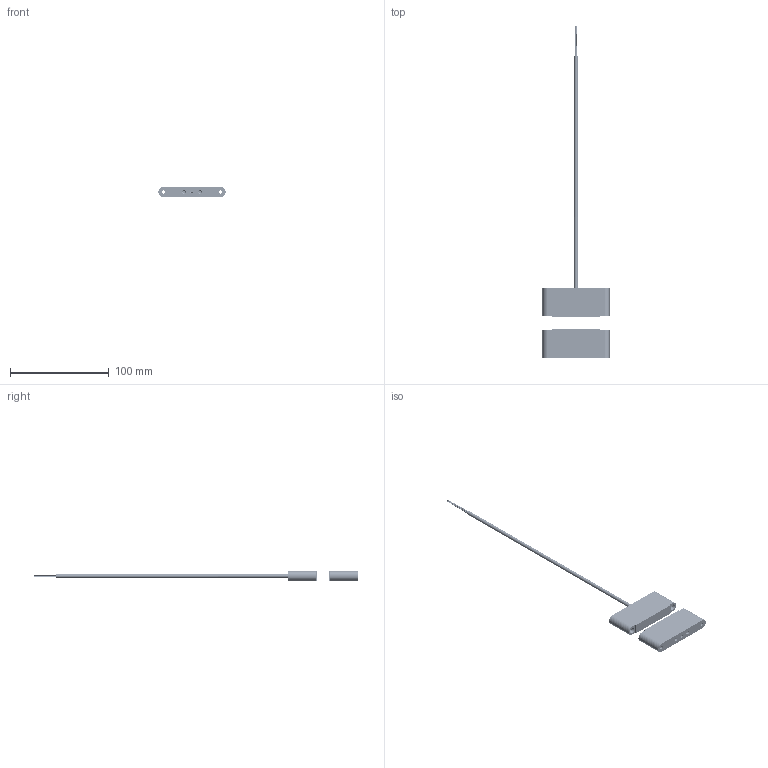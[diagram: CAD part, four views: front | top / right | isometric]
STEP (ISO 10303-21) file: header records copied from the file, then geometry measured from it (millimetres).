
FILE_DESCRIPTION(/* description */ (''),/* implementation_level */ '2;1');
FILE_NAME(/* name */ 'KOPIE_1306833- EKOM 11 + AGV 10m-0,3m (Schco).stp',/* time_stamp */ '2025-12-17T09:52:25+01:00',/* author */ ('DSchwan'),/* organization */ (''),/* preprocessor_version */ 'ST-DEVELOPER v20',/* originating_system */ 'Autodesk Inventor 2025',/* authorisation */ '');
FILE_SCHEMA (('AUTOMOTIVE_DESIGN { 1 0 10303 214 3 1 1 }'));
Products named in the file (1): KOPIE_1306833- EKOM 11 + AGV 10m-0,3m (Schüco)
Bounding box: 68 x 336.3 x 10 mm (x, y, z)
Volume: 23748.4 mm3; surface area: 40948 mm2
Topology: 2 solids, 10 shells, 6367 faces, 16120 edges, 9857 vertices
Faces by surface type: plane 3539, cylinder 1986, sphere 344, bspline 297, torus 174, cone 27
Full cylindrical faces by diameter (mm): 0.2 x1, 0.3 x87, 0.5 x71, 0.527 x1, 0.6 x139, 0.75 x8, 0.9 x20, 1 x13, 1.5 x23, 1.6 x1, 1.8 x2, 2 x4, 2.2 x2, 2.4 x2, 3 x4, 3.2 x2, 3.3 x1, 3.4 x2, 3.459 x4, 3.5 x12, 3.8 x1, 3.9 x3, 4 x4, 4.4 x2, 4.5 x3, 5 x3, 5.3 x154, 5.7 x140, 5.8 x4, 6 x5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
Entity records: 274490 total; most frequent: CARTESIAN_POINT 114961, ORIENTED_EDGE 32344, DIRECTION 30639, EDGE_CURVE 16172, LINE 10369, VECTOR 10369, AXIS2_PLACEMENT_3D 10135, VERTEX_POINT 9855
